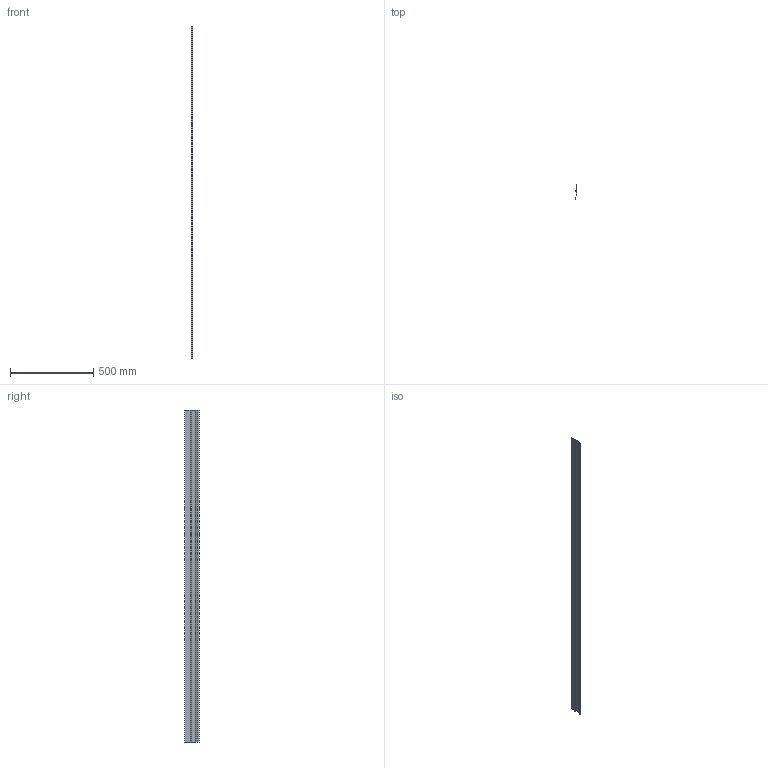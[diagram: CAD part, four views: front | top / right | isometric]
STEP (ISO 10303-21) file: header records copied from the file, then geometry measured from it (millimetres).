
FILE_DESCRIPTION (( 'STEP AP203' ), '1' );
FILE_NAME ('M10SHW.STEP', '2018-06-19T12:28:59', ( 'Michael Moliner' ), ( '' ), 'SwSTEP 2.0', 'SolidWorks 2018', '' );
FILE_SCHEMA (( 'CONFIG_CONTROL_DESIGN' ));
Length unit declared in the file: inch
Products named in the file (2): M10SHW
Bounding box: 6.35 x 86.73 x 2000 mm (x, y, z)
Volume: 92840 mm3; surface area: 367677.6 mm2
Topology: 1 solids, 1 shells, 20 faces, 54 edges, 36 vertices
Faces by surface type: plane 12, cylinder 8
Entity records: 791 total; most frequent: DIRECTION 114, CARTESIAN_POINT 112, ORIENTED_EDGE 108, EDGE_CURVE 54, LINE 38, AXIS2_PLACEMENT_3D 38, VECTOR 38, VERTEX_POINT 36
